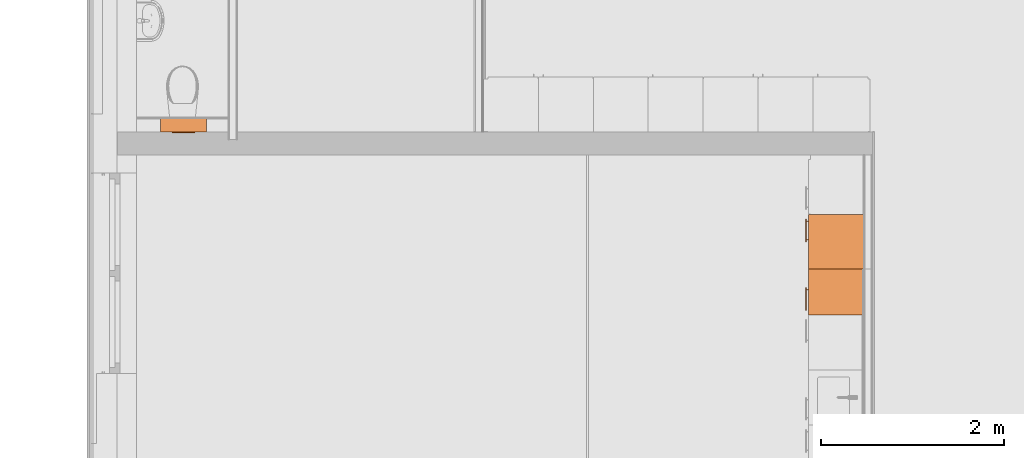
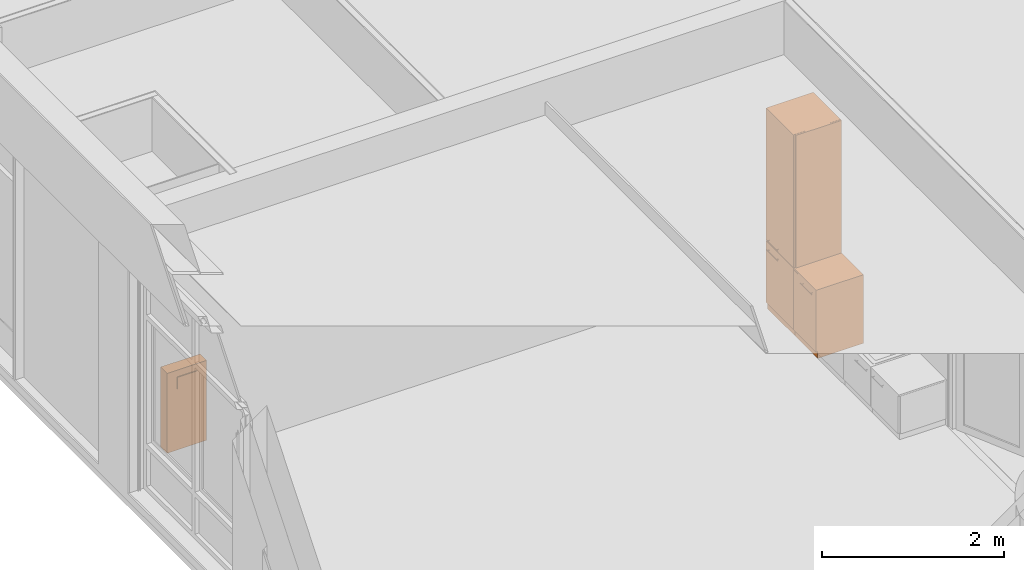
# One storey, part 96 of 167: 3 proxies.
"""IFC2X3 building model written with IfcOpenShell, lengths in millimetres."""

from ifc_helpers import new_model, entity, si_unit, converted_unit, derived_unit, money_unit, direction, frame, origin_with_axes, place, context, subcontext, project, spatial, open_shell, faceted_brep, surface_model, source, transform, mapped, type_object, type_shapes, element, save


model = new_model("IFC2X3")

# Units and contexts
model_context = context("Model", 3, precision=0.01, world=origin_with_axes(), true_north=direction((0.0, 1.0)))
plan_context = context("Plan", 3, precision=0.01, world=origin_with_axes(), true_north=direction((0.0, 1.0)))
body_context = subcontext(model_context, "Body", "Model", "MODEL_VIEW")
ifc_project = project(units=[si_unit("LENGTHUNIT", "METRE", prefix="MILLI"), si_unit("AREAUNIT", "SQUARE_METRE"), si_unit("VOLUMEUNIT", "CUBIC_METRE"), converted_unit("PLANEANGLEUNIT", "DEGREE", entity("IfcPlaneAngleMeasure", 0.0174532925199), si_unit("PLANEANGLEUNIT", "RADIAN"), dimensions=[0, 0, 0, 0, 0, 0, 0]), si_unit("SOLIDANGLEUNIT", "STERADIAN"), money_unit("EUR"), converted_unit("TIMEUNIT", "Year", entity("IfcTimeMeasure", 31556926.0), si_unit("TIMEUNIT", "SECOND"), dimensions=[0, 0, 1, 0, 0, 0, 0]), si_unit("MASSUNIT", "GRAM", prefix="KILO"), si_unit("THERMODYNAMICTEMPERATUREUNIT", "DEGREE_CELSIUS"), si_unit("LUMINOUSINTENSITYUNIT", "LUMEN"), si_unit("ENERGYUNIT", "JOULE", prefix="MEGA"), derived_unit("THERMALCONDUCTANCEUNIT", [(si_unit("POWERUNIT", "WATT"), 1), (si_unit("LENGTHUNIT", "METRE"), -1), (si_unit("THERMODYNAMICTEMPERATUREUNIT", "KELVIN"), -1)]), derived_unit("SPECIFICHEATCAPACITYUNIT", [(si_unit("ENERGYUNIT", "JOULE"), 1), (si_unit("MASSUNIT", "GRAM", prefix="KILO"), -1), (si_unit("THERMODYNAMICTEMPERATUREUNIT", "KELVIN"), -1)]), derived_unit("MASSDENSITYUNIT", [(si_unit("MASSUNIT", "GRAM", prefix="KILO"), 1), (si_unit("VOLUMEUNIT", "CUBIC_METRE"), -1)])], contexts=[model_context, plan_context])

# Site, building, storey
site_placement = place(None, origin_with_axes())
site = spatial("IfcSite", under=ifc_project, at=site_placement, Name="Site", CompositionType="ELEMENT")
building_placement = place(site_placement, origin_with_axes())
building = spatial("IfcBuilding", under=site, at=building_placement, Name="Naam gebouw", CompositionType="ELEMENT")
storey_placement = place(building_placement, origin_with_axes())
storey = spatial("IfcBuildingStorey", under=building, at=storey_placement, Name="Begane grond", CompositionType="ELEMENT", Elevation=0.0)

# Proxies
building_element_proxy_type_1 = type_object("IfcBuildingElementProxyType", Name="Kast basis 1D 24", PredefinedType="NOTDEFINED")
shared_shape_1 = source(origin_with_axes(), body_context, "Body", "SurfaceModel", [
    faceted_brep([(0.0, 20.0, 0.0), (500.0, 20.0, 0.0), (500.0, 20.0, 90.0), (0.0, 20.0, 90.0), (0.0, 600.0, 0.0), (500.0, 600.0, 0.0), (500.0, 600.0, 90.0), (0.0, 600.0, 90.0)], [[[0, 1, 2, 3]], [[0, 4, 5, 1]], [[1, 5, 6, 2]], [[3, 2, 6, 7]], [[4, 0, 3, 7]], [[5, 4, 7, 6]]]),
    faceted_brep([(0.0, 20.0, 880.0), (20.0, 20.0, 880.0), (20.0, 20.0, 900.0), (0.0, 20.0, 900.0), (0.0, 600.0, 880.0), (20.0, 600.0, 880.0), (480.0, 600.0, 880.0), (500.0, 600.0, 880.0), (500.0, 20.0, 880.0), (480.0, 20.0, 880.0), (480.0, 20.0, 900.0), (500.0, 20.0, 900.0), (500.0, 600.0, 900.0), (480.0, 600.0, 900.0), (20.0, 600.0, 900.0), (0.0, 600.0, 900.0)], [[[0, 1, 2, 3]], [[0, 4, 5, 6, 7, 8, 9, 1]], [[1, 9, 10, 2]], [[3, 2, 10, 11, 12, 13, 14, 15]], [[4, 0, 3, 15]], [[5, 4, 15, 14]], [[6, 5, 14, 13]], [[7, 6, 13, 12]], [[8, 7, 12, 11]], [[9, 8, 11, 10]]]),
    faceted_brep([(0.0, 20.0, 90.0), (20.0, 20.0, 90.0), (20.0, 20.0, 110.0), (0.0, 20.0, 110.0), (0.0, 600.0, 90.0), (20.0, 600.0, 90.0), (480.0, 600.0, 90.0), (500.0, 600.0, 90.0), (500.0, 20.0, 90.0), (480.0, 20.0, 90.0), (480.0, 20.0, 110.0), (500.0, 20.0, 110.0), (500.0, 600.0, 110.0), (480.0, 600.0, 110.0), (20.0, 600.0, 110.0), (0.0, 600.0, 110.0)], [[[0, 1, 2, 3]], [[0, 4, 5, 6, 7, 8, 9, 1]], [[1, 9, 10, 2]], [[3, 2, 10, 11, 12, 13, 14, 15]], [[4, 0, 3, 15]], [[5, 4, 15, 14]], [[6, 5, 14, 13]], [[7, 6, 13, 12]], [[8, 7, 12, 11]], [[9, 8, 11, 10]]]),
    faceted_brep([(0.0, 20.0, 110.0), (20.0, 20.0, 110.0), (20.0, 20.0, 880.0), (0.0, 20.0, 880.0), (0.0, 600.0, 110.0), (500.0, 600.0, 110.0), (500.0, 20.0, 110.0), (480.0, 20.0, 110.0), (480.0, 580.0, 110.0), (20.0, 580.0, 110.0), (20.0, 580.0, 880.0), (480.0, 580.0, 880.0), (480.0, 20.0, 880.0), (500.0, 20.0, 880.0), (500.0, 600.0, 880.0), (0.0, 600.0, 880.0)], [[[0, 1, 2, 3]], [[0, 4, 5, 6, 7, 8, 9, 1]], [[1, 9, 10, 2]], [[3, 2, 10, 11, 12, 13, 14, 15]], [[4, 0, 3, 15]], [[5, 4, 15, 14]], [[6, 5, 14, 13]], [[7, 6, 13, 12]], [[8, 7, 12, 11]], [[9, 8, 11, 10]]]),
    faceted_brep([(480.0, 20.0, 475.0), (480.0, 580.0, 475.0), (480.0, 580.0, 495.0), (480.0, 20.0, 495.0), (20.0, 20.0, 475.0), (20.0, 580.0, 475.0), (20.0, 580.0, 495.0), (20.0, 20.0, 495.0)], [[[0, 1, 2, 3]], [[0, 4, 5, 1]], [[1, 5, 6, 2]], [[3, 2, 6, 7]], [[4, 0, 3, 7]], [[5, 4, 7, 6]]]),
    faceted_brep([(0.0, 0.0, 900.0), (500.0, 0.0, 900.0), (500.0, 0.0, 920.0), (0.0, 0.0, 920.0), (0.0, 600.0, 900.0), (500.0, 600.0, 900.0), (500.0, 600.0, 920.0), (0.0, 600.0, 920.0)], [[[0, 1, 2, 3]], [[0, 4, 5, 1]], [[1, 5, 6, 2]], [[3, 2, 6, 7]], [[4, 0, 3, 7]], [[5, 4, 7, 6]]]),
    faceted_brep([(1.5, 20.0, 91.5), (498.5, 20.0, 91.5), (498.5, 0.0, 91.5), (1.5, 0.0, 91.5), (1.5, 20.0, 898.5), (498.5, 20.0, 898.5), (498.5, 0.0, 898.5), (1.5, 0.0, 898.5)], [[[0, 1, 2, 3]], [[0, 4, 5, 1]], [[1, 5, 6, 2]], [[3, 2, 6, 7]], [[4, 0, 3, 7]], [[5, 4, 7, 6]]]),
    faceted_brep([(198.5, -28.1480502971, 838.728361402), (198.5, -29.1213203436, 839.378679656), (198.5, -29.7716385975, 840.351949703), (198.5, -30.0, 841.5), (198.5, -29.7716385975, 842.648050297), (198.5, -29.1213203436, 843.621320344), (198.5, -28.1480502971, 844.271638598), (198.5, -27.0, 844.5), (198.5, -25.8519497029, 844.271638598), (198.5, -24.8786796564, 843.621320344), (198.5, -24.2283614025, 842.648050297), (198.5, -24.0, 841.5), (198.5, -24.2283614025, 840.351949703), (198.5, -24.8786796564, 839.378679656), (198.5, -25.8519497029, 838.728361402), (198.5, -27.0, 838.5), (448.5, -28.1480502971, 838.728361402), (448.5, -29.1213203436, 839.378679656), (448.5, -29.7716385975, 840.351949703), (448.5, -30.0, 841.5), (448.5, -29.7716385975, 842.648050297), (448.5, -29.1213203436, 843.621320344), (448.5, -28.1480502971, 844.271638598), (448.5, -27.0, 844.5), (448.5, -25.8519497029, 844.271638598), (448.5, -24.8786796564, 843.621320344), (448.5, -24.2283614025, 842.648050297), (448.5, -24.0, 841.5), (448.5, -24.2283614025, 840.351949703), (448.5, -24.8786796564, 839.378679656), (448.5, -25.8519497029, 838.728361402), (448.5, -27.0, 838.5)], [[[0, 1, 2, 3, 4, 5, 6, 7, 8, 9, 10, 11, 12, 13, 14, 15]], [[1, 0, 16, 17]], [[2, 1, 17, 18]], [[3, 2, 18, 19]], [[4, 3, 19, 20]], [[5, 4, 20, 21]], [[6, 5, 21, 22]], [[7, 6, 22, 23]], [[8, 7, 23, 24]], [[9, 8, 24, 25]], [[10, 9, 25, 26]], [[11, 10, 26, 27]], [[12, 11, 27, 28]], [[13, 12, 28, 29]], [[14, 13, 29, 30]], [[15, 14, 30, 31]], [[0, 15, 31, 16]], [[16, 31, 30, 29, 28, 27, 26, 25, 24, 23, 22, 21, 20, 19, 18, 17]]]),
    surface_model("IfcShellBasedSurfaceModel", [(221.190301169, -24.156637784, 840.543291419), (221.0, -24.0, 841.5), (221.0, 0.0, 841.5), (221.190301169, 0.0, 840.543291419), (221.190301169, -24.156637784, 842.456708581), (221.190301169, 0.0, 842.456708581), (221.732233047, 0.0, 843.267766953), (222.543291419, 0.0, 843.809698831), (223.5, 0.0, 844.0), (224.456708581, 0.0, 843.809698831), (225.267766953, 0.0, 843.267766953), (225.809698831, 0.0, 842.456708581), (226.0, 0.0, 841.5), (225.809698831, 0.0, 840.543291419), (225.267766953, 0.0, 839.732233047), (224.456708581, 0.0, 839.190301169), (223.5, 0.0, 839.0), (222.543291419, 0.0, 839.190301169), (221.732233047, 0.0, 839.732233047), (221.732233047, -24.5761600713, 839.732233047), (221.732233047, -24.5761600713, 843.267766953), (222.543291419, -25.0855049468, 843.809698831), (223.5, -25.3416876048, 844.0), (224.456708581, -25.0855049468, 843.809698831), (225.267766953, -24.5761600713, 843.267766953), (225.809698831, -24.156637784, 842.456708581), (226.0, -24.0, 841.5), (225.809698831, -24.156637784, 840.543291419), (225.267766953, -24.5761600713, 839.732233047), (224.456708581, -25.0855049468, 839.190301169), (223.5, -25.3416876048, 839.0), (222.543291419, -25.0855049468, 839.190301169)], [open_shell([[[0, 1, 2, 3]], [[1, 4, 5, 2]], [[3, 2, 5, 6, 7, 8, 9, 10, 11, 12, 13, 14, 15, 16, 17, 18]], [[19, 0, 3, 18]], [[4, 20, 6, 5]], [[20, 21, 7, 6]], [[21, 22, 8, 7]], [[22, 23, 9, 8]], [[23, 24, 10, 9]], [[24, 25, 11, 10]], [[25, 26, 12, 11]], [[26, 27, 13, 12]], [[27, 28, 14, 13]], [[28, 29, 15, 14]], [[29, 30, 16, 15]], [[30, 31, 17, 16]], [[31, 19, 18, 17]]])]),
    surface_model("IfcShellBasedSurfaceModel", [(421.190301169, -24.156637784, 840.543291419), (421.0, -24.0, 841.5), (421.0, 0.0, 841.5), (421.190301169, 0.0, 840.543291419), (421.190301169, -24.156637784, 842.456708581), (421.190301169, 0.0, 842.456708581), (421.732233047, 0.0, 843.267766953), (422.543291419, 0.0, 843.809698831), (423.5, 0.0, 844.0), (424.456708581, 0.0, 843.809698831), (425.267766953, 0.0, 843.267766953), (425.809698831, 0.0, 842.456708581), (426.0, 0.0, 841.5), (425.809698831, 0.0, 840.543291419), (425.267766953, 0.0, 839.732233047), (424.456708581, 0.0, 839.190301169), (423.5, 0.0, 839.0), (422.543291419, 0.0, 839.190301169), (421.732233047, 0.0, 839.732233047), (421.732233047, -24.5761600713, 839.732233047), (421.732233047, -24.5761600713, 843.267766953), (422.543291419, -25.0855049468, 843.809698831), (423.5, -25.3416876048, 844.0), (424.456708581, -25.0855049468, 843.809698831), (425.267766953, -24.5761600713, 843.267766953), (425.809698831, -24.156637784, 842.456708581), (426.0, -24.0, 841.5), (425.809698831, -24.156637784, 840.543291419), (425.267766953, -24.5761600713, 839.732233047), (424.456708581, -25.0855049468, 839.190301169), (423.5, -25.3416876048, 839.0), (422.543291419, -25.0855049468, 839.190301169)], [open_shell([[[0, 1, 2, 3]], [[1, 4, 5, 2]], [[3, 2, 5, 6, 7, 8, 9, 10, 11, 12, 13, 14, 15, 16, 17, 18]], [[19, 0, 3, 18]], [[4, 20, 6, 5]], [[20, 21, 7, 6]], [[21, 22, 8, 7]], [[22, 23, 9, 8]], [[23, 24, 10, 9]], [[24, 25, 11, 10]], [[25, 26, 12, 11]], [[26, 27, 13, 12]], [[27, 28, 14, 13]], [[28, 29, 15, 14]], [[29, 30, 16, 15]], [[30, 31, 17, 16]], [[31, 19, 18, 17]]])]),
])
type_shapes(building_element_proxy_type_1, [shared_shape_1])
proxy_1_placement = place(storey_placement, frame((7550.0, 34625.0, 0.0), z_axis=(0.0, 0.0, 1.0), x_axis=(0.0, -1.0, 0.0)))
element("IfcBuildingElementProxy", 1, at=proxy_1_placement, inside=storey, type_object=building_element_proxy_type_1, Name="__Object-x", context=body_context, shape_type="MappedRepresentation", body=[
    mapped(shared_shape_1, transform((0.0, 0.0, 0.0))),
])
building_element_proxy_type_2 = type_object("IfcBuildingElementProxyType", Name="Inbouwreservoir 24 KM", PredefinedType="NOTDEFINED")
shared_shape_2 = source(origin_with_axes(), body_context, "Body", "SurfaceModel", [
    faceted_brep([(0.0, 0.0, 0.0), (501.499856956, 0.0, 0.0), (501.499856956, 0.0, 1070.0), (0.0, 0.0, 1070.0), (0.0, 145.000476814, 0.0), (501.499856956, 145.000476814, 0.0), (501.499856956, 145.000476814, 1070.0), (0.0, 145.000476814, 1070.0)], [[[0, 1, 2, 3]], [[0, 4, 5, 1]], [[1, 5, 6, 2]], [[3, 2, 6, 7]], [[4, 0, 3, 7]], [[5, 4, 7, 6]]]),
    surface_model("IfcShellBasedSurfaceModel", [(1.0, 0.0, 0.0), (500.499856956, 0.0, 0.0), (500.499856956, 145.000476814, 1070.0), (1.0, 145.000476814, 1070.0)], [open_shell([[[0, 1, 2, 3]]])]),
    surface_model("IfcShellBasedSurfaceModel", [(1.0, 0.0, 1070.0), (500.499856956, 0.0, 1070.0), (500.499856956, 145.000476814, 0.0), (1.0, 145.000476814, 0.0)], [open_shell([[[0, 1, 2, 3]]])]),
    faceted_brep([(375.749928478, -10.0, 820.0), (125.749928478, -10.0, 820.0), (125.749928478, 0.0, 820.0), (375.749928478, 0.0, 820.0), (375.749928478, -10.0, 980.0), (125.749928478, -10.0, 980.0), (125.749928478, 0.0, 980.0), (375.749928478, 0.0, 980.0)], [[[0, 1, 2, 3]], [[1, 0, 4, 5]], [[2, 1, 5, 6]], [[3, 2, 6, 7]], [[0, 3, 7, 4]], [[5, 4, 7, 6]]]),
    surface_model("IfcShellBasedSurfaceModel", [(325.749928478, 0.0, 850.0), (175.749928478, 0.0, 850.0), (175.749928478, 0.0, 950.0), (325.749928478, 0.0, 950.0)], [open_shell([[[0, 1, 2, 3]]])]),
    surface_model("IfcShellBasedSurfaceModel", [(175.749928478, -10.0, 820.0), (325.749928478, -10.0, 820.0), (325.749928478, -10.0, 855.0), (175.749928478, -10.0, 855.0)], [open_shell([[[0, 1, 2, 3]]])]),
    surface_model("IfcShellBasedSurfaceModel", [(175.749928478, -10.0, 855.0), (265.749928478, -10.0, 855.0), (265.749928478, -10.0, 945.0), (175.749928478, -10.0, 945.0)], [open_shell([[[0, 1, 2, 3]]])]),
    surface_model("IfcShellBasedSurfaceModel", [(265.749928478, -10.0, 855.0), (325.749928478, -10.0, 855.0), (325.749928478, -10.0, 945.0), (265.749928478, -10.0, 945.0)], [open_shell([[[0, 1, 2, 3]]])]),
])
type_shapes(building_element_proxy_type_2, [shared_shape_2])
proxy_2_placement = place(storey_placement, frame((474.739893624, 36125.0, 0.0), z_axis=(0.0, 0.0, 1.0), x_axis=(0.999999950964, -0.000313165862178, 0.0)))
element("IfcBuildingElementProxy", 2, at=proxy_2_placement, inside=storey, type_object=building_element_proxy_type_2, Name="__Object-x", context=body_context, shape_type="MappedRepresentation", body=[
    mapped(shared_shape_2, transform((0.0, 0.0, 0.0))),
])
building_element_proxy_type_3 = type_object("IfcBuildingElementProxyType", Name="Kast hoog 1D 24", PredefinedType="NOTDEFINED")
shared_shape_3 = source(origin_with_axes(), body_context, "Body", "SurfaceModel", [
    faceted_brep([(-40.0, 20.0, 910.0), (-40.0, 20.0, 930.0), (-600.0, 20.0, 930.0), (-600.0, 20.0, 910.0), (-40.0, 580.0, 910.0), (-40.0, 580.0, 930.0), (-600.0, 580.0, 930.0), (-600.0, 580.0, 910.0)], [[[0, 1, 2, 3]], [[4, 5, 1, 0]], [[1, 5, 6, 2]], [[3, 2, 6, 7]], [[0, 3, 7, 4]], [[7, 6, 5, 4]]]),
    faceted_brep([(-20.0, 20.0, 0.0), (-20.0, 20.0, 90.0), (-620.0, 20.0, 90.0), (-620.0, 20.0, 0.0), (-20.0, 600.0, 0.0), (-20.0, 600.0, 90.0), (-620.0, 600.0, 90.0), (-620.0, 600.0, 0.0)], [[[0, 1, 2, 3]], [[4, 5, 1, 0]], [[1, 5, 6, 2]], [[3, 2, 6, 7]], [[0, 3, 7, 4]], [[7, 6, 5, 4]]]),
    faceted_brep([(-20.0, 20.0, 2680.0), (-20.0, 20.0, 2700.0), (-40.0, 20.0, 2700.0), (-40.0, 20.0, 2680.0), (-20.0, 600.0, 2680.0), (-20.0, 600.0, 2700.0), (-40.0, 600.0, 2700.0), (-600.0, 600.0, 2700.0), (-620.0, 600.0, 2700.0), (-620.0, 20.0, 2700.0), (-600.0, 20.0, 2700.0), (-600.0, 20.0, 2680.0), (-620.0, 20.0, 2680.0), (-620.0, 600.0, 2680.0), (-600.0, 600.0, 2680.0), (-40.0, 600.0, 2680.0)], [[[0, 1, 2, 3]], [[4, 5, 1, 0]], [[1, 5, 6, 7, 8, 9, 10, 2]], [[3, 2, 10, 11]], [[0, 3, 11, 12, 13, 14, 15, 4]], [[15, 6, 5, 4]], [[14, 7, 6, 15]], [[13, 8, 7, 14]], [[12, 9, 8, 13]], [[11, 10, 9, 12]]]),
    faceted_brep([(-20.0, 20.0, 90.0), (-20.0, 20.0, 110.0), (-40.0, 20.0, 110.0), (-40.0, 20.0, 90.0), (-20.0, 600.0, 90.0), (-20.0, 600.0, 110.0), (-40.0, 600.0, 110.0), (-600.0, 600.0, 110.0), (-620.0, 600.0, 110.0), (-620.0, 20.0, 110.0), (-600.0, 20.0, 110.0), (-600.0, 20.0, 90.0), (-620.0, 20.0, 90.0), (-620.0, 600.0, 90.0), (-600.0, 600.0, 90.0), (-40.0, 600.0, 90.0)], [[[0, 1, 2, 3]], [[4, 5, 1, 0]], [[1, 5, 6, 7, 8, 9, 10, 2]], [[3, 2, 10, 11]], [[0, 3, 11, 12, 13, 14, 15, 4]], [[15, 6, 5, 4]], [[14, 7, 6, 15]], [[13, 8, 7, 14]], [[12, 9, 8, 13]], [[11, 10, 9, 12]]]),
    faceted_brep([(-20.0, 20.0, 110.0), (-20.0, 20.0, 2680.0), (-40.0, 20.0, 2680.0), (-40.0, 20.0, 110.0), (-20.0, 600.0, 110.0), (-20.0, 600.0, 2680.0), (-620.0, 600.0, 2680.0), (-620.0, 20.0, 2680.0), (-600.0, 20.0, 2680.0), (-600.0, 580.0, 2680.0), (-40.0, 580.0, 2680.0), (-40.0, 580.0, 110.0), (-600.0, 580.0, 110.0), (-600.0, 20.0, 110.0), (-620.0, 20.0, 110.0), (-620.0, 600.0, 110.0)], [[[0, 1, 2, 3]], [[4, 5, 1, 0]], [[1, 5, 6, 7, 8, 9, 10, 2]], [[3, 2, 10, 11]], [[0, 3, 11, 12, 13, 14, 15, 4]], [[15, 6, 5, 4]], [[14, 7, 6, 15]], [[13, 8, 7, 14]], [[12, 9, 8, 13]], [[11, 10, 9, 12]]]),
    faceted_brep([(-600.0, 20.0, 353.333333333), (-600.0, 20.0, 373.333333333), (-600.0, 580.0, 373.333333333), (-600.0, 580.0, 353.333333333), (-40.0, 20.0, 353.333333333), (-40.0, 20.0, 373.333333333), (-40.0, 580.0, 373.333333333), (-40.0, 580.0, 353.333333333)], [[[0, 1, 2, 3]], [[4, 5, 1, 0]], [[1, 5, 6, 2]], [[3, 2, 6, 7]], [[0, 3, 7, 4]], [[7, 6, 5, 4]]]),
    faceted_brep([(-600.0, 20.0, 636.666666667), (-600.0, 20.0, 656.666666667), (-600.0, 580.0, 656.666666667), (-600.0, 580.0, 636.666666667), (-40.0, 20.0, 636.666666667), (-40.0, 20.0, 656.666666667), (-40.0, 580.0, 656.666666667), (-40.0, 580.0, 636.666666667)], [[[0, 1, 2, 3]], [[4, 5, 1, 0]], [[1, 5, 6, 2]], [[3, 2, 6, 7]], [[0, 3, 7, 4]], [[7, 6, 5, 4]]]),
    faceted_brep([(-21.5, 20.0, 91.5), (-21.5, 0.0, 91.5), (-618.5, 0.0, 91.5), (-618.5, 20.0, 91.5), (-21.5, 20.0, 918.5), (-21.5, 0.0, 918.5), (-618.5, 0.0, 918.5), (-618.5, 20.0, 918.5)], [[[0, 1, 2, 3]], [[4, 5, 1, 0]], [[1, 5, 6, 2]], [[3, 2, 6, 7]], [[0, 3, 7, 4]], [[7, 6, 5, 4]]]),
    faceted_brep([(-318.5, -28.1480502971, 838.728361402), (-318.5, -27.0, 838.5), (-318.5, -25.8519497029, 838.728361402), (-318.5, -24.8786796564, 839.378679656), (-318.5, -24.2283614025, 840.351949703), (-318.5, -24.0, 841.5), (-318.5, -24.2283614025, 842.648050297), (-318.5, -24.8786796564, 843.621320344), (-318.5, -25.8519497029, 844.271638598), (-318.5, -27.0, 844.5), (-318.5, -28.1480502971, 844.271638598), (-318.5, -29.1213203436, 843.621320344), (-318.5, -29.7716385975, 842.648050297), (-318.5, -30.0, 841.5), (-318.5, -29.7716385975, 840.351949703), (-318.5, -29.1213203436, 839.378679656), (-568.5, -28.1480502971, 838.728361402), (-568.5, -27.0, 838.5), (-568.5, -25.8519497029, 838.728361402), (-568.5, -24.8786796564, 839.378679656), (-568.5, -24.2283614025, 840.351949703), (-568.5, -24.0, 841.5), (-568.5, -24.2283614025, 842.648050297), (-568.5, -24.8786796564, 843.621320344), (-568.5, -25.8519497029, 844.271638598), (-568.5, -27.0, 844.5), (-568.5, -28.1480502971, 844.271638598), (-568.5, -29.1213203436, 843.621320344), (-568.5, -29.7716385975, 842.648050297), (-568.5, -30.0, 841.5), (-568.5, -29.7716385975, 840.351949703), (-568.5, -29.1213203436, 839.378679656)], [[[0, 1, 2, 3, 4, 5, 6, 7, 8, 9, 10, 11, 12, 13, 14, 15]], [[0, 16, 17, 1]], [[1, 17, 18, 2]], [[2, 18, 19, 3]], [[3, 19, 20, 4]], [[4, 20, 21, 5]], [[5, 21, 22, 6]], [[6, 22, 23, 7]], [[7, 23, 24, 8]], [[8, 24, 25, 9]], [[9, 25, 26, 10]], [[10, 26, 27, 11]], [[11, 27, 28, 12]], [[12, 28, 29, 13]], [[13, 29, 30, 14]], [[14, 30, 31, 15]], [[15, 31, 16, 0]], [[16, 31, 30, 29, 28, 27, 26, 25, 24, 23, 22, 21, 20, 19, 18, 17]]]),
    surface_model("IfcShellBasedSurfaceModel", [(-341.190301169, -24.156637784, 840.543291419), (-341.190301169, 0.0, 840.543291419), (-341.0, 0.0, 841.5), (-341.0, -24.0, 841.5), (-341.732233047, -24.5761600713, 839.732233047), (-341.732233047, 0.0, 839.732233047), (-342.543291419, 0.0, 839.190301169), (-343.5, 0.0, 839.0), (-344.456708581, 0.0, 839.190301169), (-345.267766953, 0.0, 839.732233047), (-345.809698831, 0.0, 840.543291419), (-346.0, 0.0, 841.5), (-345.809698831, 0.0, 842.456708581), (-345.267766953, 0.0, 843.267766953), (-344.456708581, 0.0, 843.809698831), (-343.5, 0.0, 844.0), (-342.543291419, 0.0, 843.809698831), (-341.732233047, 0.0, 843.267766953), (-341.190301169, 0.0, 842.456708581), (-341.190301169, -24.156637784, 842.456708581), (-342.543291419, -25.0855049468, 839.190301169), (-343.5, -25.3416876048, 839.0), (-344.456708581, -25.0855049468, 839.190301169), (-345.267766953, -24.5761600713, 839.732233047), (-345.809698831, -24.156637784, 840.543291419), (-346.0, -24.0, 841.5), (-345.809698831, -24.156637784, 842.456708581), (-345.267766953, -24.5761600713, 843.267766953), (-344.456708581, -25.0855049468, 843.809698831), (-343.5, -25.3416876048, 844.0), (-342.543291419, -25.0855049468, 843.809698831), (-341.732233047, -24.5761600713, 843.267766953)], [open_shell([[[0, 1, 2, 3]], [[4, 5, 1, 0]], [[1, 5, 6, 7, 8, 9, 10, 11, 12, 13, 14, 15, 16, 17, 18, 2]], [[3, 2, 18, 19]], [[20, 6, 5, 4]], [[21, 7, 6, 20]], [[22, 8, 7, 21]], [[23, 9, 8, 22]], [[24, 10, 9, 23]], [[25, 11, 10, 24]], [[26, 12, 11, 25]], [[27, 13, 12, 26]], [[28, 14, 13, 27]], [[29, 15, 14, 28]], [[30, 16, 15, 29]], [[31, 17, 16, 30]], [[19, 18, 17, 31]]])]),
    surface_model("IfcShellBasedSurfaceModel", [(-541.190301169, -24.156637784, 840.543291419), (-541.190301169, 0.0, 840.543291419), (-541.0, 0.0, 841.5), (-541.0, -24.0, 841.5), (-541.732233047, -24.5761600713, 839.732233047), (-541.732233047, 0.0, 839.732233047), (-542.543291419, 0.0, 839.190301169), (-543.5, 0.0, 839.0), (-544.456708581, 0.0, 839.190301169), (-545.267766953, 0.0, 839.732233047), (-545.809698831, 0.0, 840.543291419), (-546.0, 0.0, 841.5), (-545.809698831, 0.0, 842.456708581), (-545.267766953, 0.0, 843.267766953), (-544.456708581, 0.0, 843.809698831), (-543.5, 0.0, 844.0), (-542.543291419, 0.0, 843.809698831), (-541.732233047, 0.0, 843.267766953), (-541.190301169, 0.0, 842.456708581), (-541.190301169, -24.156637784, 842.456708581), (-542.543291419, -25.0855049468, 839.190301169), (-543.5, -25.3416876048, 839.0), (-544.456708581, -25.0855049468, 839.190301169), (-545.267766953, -24.5761600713, 839.732233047), (-545.809698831, -24.156637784, 840.543291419), (-546.0, -24.0, 841.5), (-545.809698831, -24.156637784, 842.456708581), (-545.267766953, -24.5761600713, 843.267766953), (-544.456708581, -25.0855049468, 843.809698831), (-543.5, -25.3416876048, 844.0), (-542.543291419, -25.0855049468, 843.809698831), (-541.732233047, -24.5761600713, 843.267766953)], [open_shell([[[0, 1, 2, 3]], [[4, 5, 1, 0]], [[1, 5, 6, 7, 8, 9, 10, 11, 12, 13, 14, 15, 16, 17, 18, 2]], [[3, 2, 18, 19]], [[20, 6, 5, 4]], [[21, 7, 6, 20]], [[22, 8, 7, 21]], [[23, 9, 8, 22]], [[24, 10, 9, 23]], [[25, 11, 10, 24]], [[26, 12, 11, 25]], [[27, 13, 12, 26]], [[28, 14, 13, 27]], [[29, 15, 14, 28]], [[30, 16, 15, 29]], [[31, 17, 16, 30]], [[19, 18, 17, 31]]])]),
    faceted_brep([(-21.5, 20.0, 921.5), (-21.5, 0.0, 921.5), (-618.5, 0.0, 921.5), (-618.5, 20.0, 921.5), (-21.5, 20.0, 2698.5), (-21.5, 0.0, 2698.5), (-618.5, 0.0, 2698.5), (-618.5, 20.0, 2698.5)], [[[0, 1, 2, 3]], [[4, 5, 1, 0]], [[1, 5, 6, 2]], [[3, 2, 6, 7]], [[0, 3, 7, 4]], [[7, 6, 5, 4]]]),
    faceted_brep([(-318.5, -28.1480502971, 968.728361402), (-318.5, -27.0, 968.5), (-318.5, -25.8519497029, 968.728361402), (-318.5, -24.8786796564, 969.378679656), (-318.5, -24.2283614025, 970.351949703), (-318.5, -24.0, 971.5), (-318.5, -24.2283614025, 972.648050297), (-318.5, -24.8786796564, 973.621320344), (-318.5, -25.8519497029, 974.271638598), (-318.5, -27.0, 974.5), (-318.5, -28.1480502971, 974.271638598), (-318.5, -29.1213203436, 973.621320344), (-318.5, -29.7716385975, 972.648050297), (-318.5, -30.0, 971.5), (-318.5, -29.7716385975, 970.351949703), (-318.5, -29.1213203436, 969.378679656), (-568.5, -28.1480502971, 968.728361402), (-568.5, -27.0, 968.5), (-568.5, -25.8519497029, 968.728361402), (-568.5, -24.8786796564, 969.378679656), (-568.5, -24.2283614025, 970.351949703), (-568.5, -24.0, 971.5), (-568.5, -24.2283614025, 972.648050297), (-568.5, -24.8786796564, 973.621320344), (-568.5, -25.8519497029, 974.271638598), (-568.5, -27.0, 974.5), (-568.5, -28.1480502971, 974.271638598), (-568.5, -29.1213203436, 973.621320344), (-568.5, -29.7716385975, 972.648050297), (-568.5, -30.0, 971.5), (-568.5, -29.7716385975, 970.351949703), (-568.5, -29.1213203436, 969.378679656)], [[[0, 1, 2, 3, 4, 5, 6, 7, 8, 9, 10, 11, 12, 13, 14, 15]], [[0, 16, 17, 1]], [[1, 17, 18, 2]], [[2, 18, 19, 3]], [[3, 19, 20, 4]], [[4, 20, 21, 5]], [[5, 21, 22, 6]], [[6, 22, 23, 7]], [[7, 23, 24, 8]], [[8, 24, 25, 9]], [[9, 25, 26, 10]], [[10, 26, 27, 11]], [[11, 27, 28, 12]], [[12, 28, 29, 13]], [[13, 29, 30, 14]], [[14, 30, 31, 15]], [[15, 31, 16, 0]], [[16, 31, 30, 29, 28, 27, 26, 25, 24, 23, 22, 21, 20, 19, 18, 17]]]),
    surface_model("IfcShellBasedSurfaceModel", [(-341.190301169, -24.156637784, 970.543291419), (-341.190301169, 0.0, 970.543291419), (-341.0, 0.0, 971.5), (-341.0, -24.0, 971.5), (-341.732233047, -24.5761600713, 969.732233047), (-341.732233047, 0.0, 969.732233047), (-342.543291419, 0.0, 969.190301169), (-343.5, 0.0, 969.0), (-344.456708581, 0.0, 969.190301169), (-345.267766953, 0.0, 969.732233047), (-345.809698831, 0.0, 970.543291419), (-346.0, 0.0, 971.5), (-345.809698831, 0.0, 972.456708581), (-345.267766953, 0.0, 973.267766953), (-344.456708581, 0.0, 973.809698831), (-343.5, 0.0, 974.0), (-342.543291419, 0.0, 973.809698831), (-341.732233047, 0.0, 973.267766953), (-341.190301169, 0.0, 972.456708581), (-341.190301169, -24.156637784, 972.456708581), (-342.543291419, -25.0855049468, 969.190301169), (-343.5, -25.3416876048, 969.0), (-344.456708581, -25.0855049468, 969.190301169), (-345.267766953, -24.5761600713, 969.732233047), (-345.809698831, -24.156637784, 970.543291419), (-346.0, -24.0, 971.5), (-345.809698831, -24.156637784, 972.456708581), (-345.267766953, -24.5761600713, 973.267766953), (-344.456708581, -25.0855049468, 973.809698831), (-343.5, -25.3416876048, 974.0), (-342.543291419, -25.0855049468, 973.809698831), (-341.732233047, -24.5761600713, 973.267766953)], [open_shell([[[0, 1, 2, 3]], [[4, 5, 1, 0]], [[1, 5, 6, 7, 8, 9, 10, 11, 12, 13, 14, 15, 16, 17, 18, 2]], [[3, 2, 18, 19]], [[20, 6, 5, 4]], [[21, 7, 6, 20]], [[22, 8, 7, 21]], [[23, 9, 8, 22]], [[24, 10, 9, 23]], [[25, 11, 10, 24]], [[26, 12, 11, 25]], [[27, 13, 12, 26]], [[28, 14, 13, 27]], [[29, 15, 14, 28]], [[30, 16, 15, 29]], [[31, 17, 16, 30]], [[19, 18, 17, 31]]])]),
    surface_model("IfcShellBasedSurfaceModel", [(-541.190301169, -24.156637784, 970.543291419), (-541.190301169, 0.0, 970.543291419), (-541.0, 0.0, 971.5), (-541.0, -24.0, 971.5), (-541.732233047, -24.5761600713, 969.732233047), (-541.732233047, 0.0, 969.732233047), (-542.543291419, 0.0, 969.190301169), (-543.5, 0.0, 969.0), (-544.456708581, 0.0, 969.190301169), (-545.267766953, 0.0, 969.732233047), (-545.809698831, 0.0, 970.543291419), (-546.0, 0.0, 971.5), (-545.809698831, 0.0, 972.456708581), (-545.267766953, 0.0, 973.267766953), (-544.456708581, 0.0, 973.809698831), (-543.5, 0.0, 974.0), (-542.543291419, 0.0, 973.809698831), (-541.732233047, 0.0, 973.267766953), (-541.190301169, 0.0, 972.456708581), (-541.190301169, -24.156637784, 972.456708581), (-542.543291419, -25.0855049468, 969.190301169), (-543.5, -25.3416876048, 969.0), (-544.456708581, -25.0855049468, 969.190301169), (-545.267766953, -24.5761600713, 969.732233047), (-545.809698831, -24.156637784, 970.543291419), (-546.0, -24.0, 971.5), (-545.809698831, -24.156637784, 972.456708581), (-545.267766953, -24.5761600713, 973.267766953), (-544.456708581, -25.0855049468, 973.809698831), (-543.5, -25.3416876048, 974.0), (-542.543291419, -25.0855049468, 973.809698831), (-541.732233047, -24.5761600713, 973.267766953)], [open_shell([[[0, 1, 2, 3]], [[4, 5, 1, 0]], [[1, 5, 6, 7, 8, 9, 10, 11, 12, 13, 14, 15, 16, 17, 18, 2]], [[3, 2, 18, 19]], [[20, 6, 5, 4]], [[21, 7, 6, 20]], [[22, 8, 7, 21]], [[23, 9, 8, 22]], [[24, 10, 9, 23]], [[25, 11, 10, 24]], [[26, 12, 11, 25]], [[27, 13, 12, 26]], [[28, 14, 13, 27]], [[29, 15, 14, 28]], [[30, 16, 15, 29]], [[31, 17, 16, 30]], [[19, 18, 17, 31]]])]),
    faceted_brep([(-20.0, 598.5, 1.5), (0.0, 598.5, 1.5), (0.0, 21.5, 1.5), (-20.0, 21.5, 1.5), (-20.0, 598.5, 918.5), (0.0, 598.5, 918.5), (0.0, 21.5, 918.5), (-20.0, 21.5, 918.5)], [[[0, 1, 2, 3]], [[4, 5, 1, 0]], [[1, 5, 6, 2]], [[3, 2, 6, 7]], [[0, 3, 7, 4]], [[7, 6, 5, 4]]]),
    faceted_brep([(-20.0, 598.5, 921.5), (0.0, 598.5, 921.5), (0.0, 21.5, 921.5), (-20.0, 21.5, 921.5), (-20.0, 598.5, 2698.5), (0.0, 598.5, 2698.5), (0.0, 21.5, 2698.5), (-20.0, 21.5, 2698.5)], [[[0, 1, 2, 3]], [[4, 5, 1, 0]], [[1, 5, 6, 2]], [[3, 2, 6, 7]], [[0, 3, 7, 4]], [[7, 6, 5, 4]]]),
])
type_shapes(building_element_proxy_type_3, [shared_shape_3])
proxy_3_placement = place(storey_placement, frame((7550.0, 34605.0, 0.0), z_axis=(0.0, 0.0, 1.0), x_axis=(0.0, -1.0, 0.0)))
element("IfcBuildingElementProxy", 3, at=proxy_3_placement, inside=storey, type_object=building_element_proxy_type_3, Name="__Object-x", context=body_context, shape_type="MappedRepresentation", body=[
    mapped(shared_shape_3, transform((0.0, 0.0, 0.0))),
])

save(model, "model.ifc")
